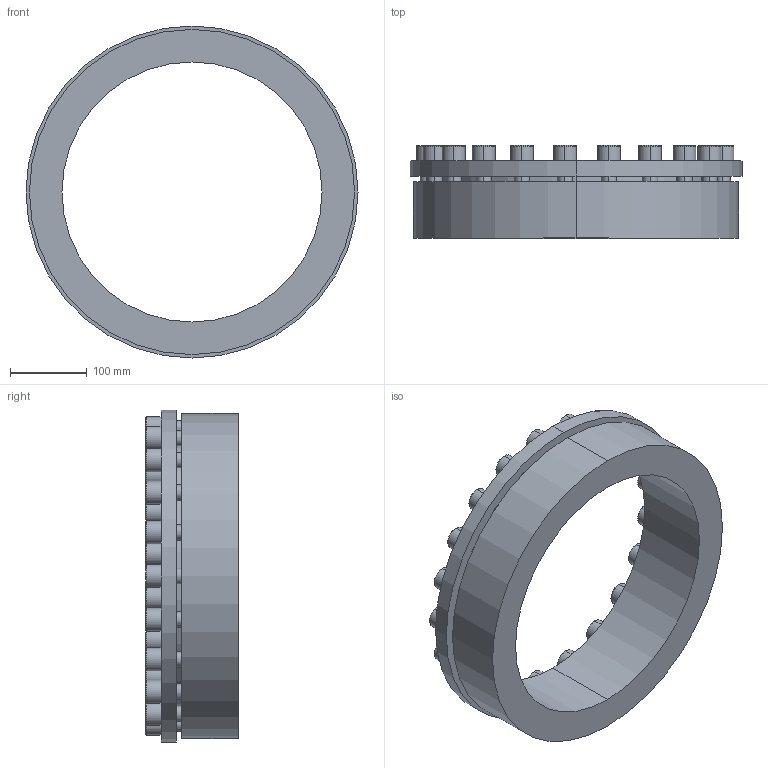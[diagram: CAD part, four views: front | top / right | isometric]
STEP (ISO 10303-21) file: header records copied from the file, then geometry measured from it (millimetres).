
FILE_DESCRIPTION (( 'STEP AP203' ), '1' );
FILE_NAME ('PL-H6 340-425.STEP', '2021-10-23T01:41:07', ( '' ), ( '' ), 'SwSTEP 2.0', 'SolidWorks 2018', '' );
FILE_SCHEMA (( 'CONFIG_CONTROL_DESIGN' ));
Length unit declared in the file: millimetre
Products named in the file (1): PL-H6 340-425
Bounding box: 434 x 121 x 434 mm (x, y, z)
Volume: 5277294.4 mm3; surface area: 486752.4 mm2
Topology: 1 solids, 1 shells, 306 faces, 738 edges, 478 vertices
Faces by surface type: plane 172, cylinder 92, torus 42
Entity records: 9099 total; most frequent: DIRECTION 1620, CARTESIAN_POINT 1523, ORIENTED_EDGE 1476, EDGE_CURVE 738, AXIS2_PLACEMENT_3D 575, VERTEX_POINT 478, LINE 470, VECTOR 470
